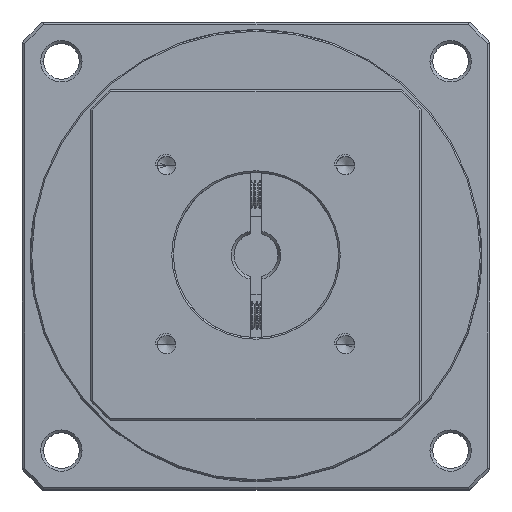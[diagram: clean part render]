
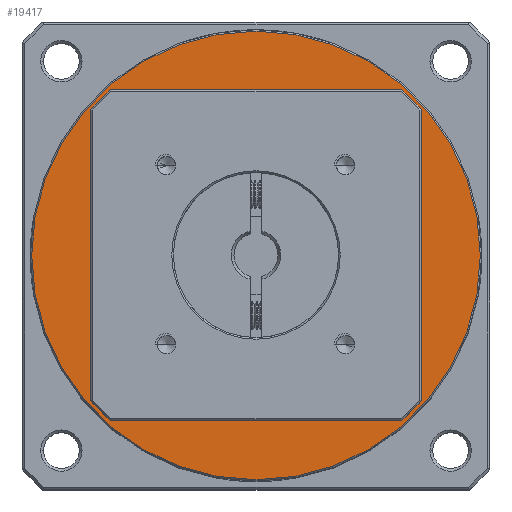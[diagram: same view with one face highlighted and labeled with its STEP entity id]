
A CAD part, top view. The second image highlights one B-rep face of the part: STEP entity #19417.
In plain terms, the highlighted planar face has unit normal (0, 0, 1).
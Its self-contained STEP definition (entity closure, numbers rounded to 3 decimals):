
#2718 = ORIENTED_EDGE ( 'NONE', *, *, #43535, .T. ) ;
#16067 = EDGE_LOOP ( 'NONE', ( #89984, #110338 ) ) ;
#19417 = ADVANCED_FACE ( 'NONE', ( #68778, #98747 ), #109072, .T. ) ;
#23589 = DIRECTION ( 'NONE',  ( 0., 0., 1. ) ) ;
#23616 = DIRECTION ( 'NONE',  ( 1., 0., 0. ) ) ;
#31367 = AXIS2_PLACEMENT_3D ( 'NONE', #118711, #23589, #41538 ) ;
#37786 = CARTESIAN_POINT ( 'NONE',  ( -46.692, 55.161, -50.786 ) ) ;
#39050 = CIRCLE ( 'NONE', #31367, 40.75 ) ;
#40660 = VERTEX_POINT ( 'NONE', #37786 ) ;
#41538 = DIRECTION ( 'NONE',  ( 1., 0., 0. ) ) ;
#42113 = VERTEX_POINT ( 'NONE', #109268 ) ;
#43535 = EDGE_CURVE ( 'NONE', #42113, #83540, #39050, .T. ) ;
#45748 = DIRECTION ( 'NONE',  ( 0., 0., 1. ) ) ;
#49435 = DIRECTION ( 'NONE',  ( 1., 0., 0. ) ) ;
#50337 = EDGE_CURVE ( 'NONE', #52785, #40660, #71883, .T. ) ;
#52785 = VERTEX_POINT ( 'NONE', #97229 ) ;
#55649 = CIRCLE ( 'NONE', #83893, 30. ) ;
#58032 = DIRECTION ( 'NONE',  ( 1., 0., 0. ) ) ;
#67686 = CARTESIAN_POINT ( 'NONE',  ( -35.942, 55.161, -50.786 ) ) ;
#68778 = FACE_BOUND ( 'NONE', #16067, .T. ) ;
#69545 = CARTESIAN_POINT ( 'NONE',  ( -76.692, 55.161, -50.786 ) ) ;
#71152 = EDGE_CURVE ( 'NONE', #40660, #52785, #55649, .T. ) ;
#71354 = DIRECTION ( 'NONE',  ( 0., 0., 1. ) ) ;
#71883 = CIRCLE ( 'NONE', #91999, 30. ) ;
#78023 = EDGE_LOOP ( 'NONE', ( #2718, #122484 ) ) ;
#80255 = AXIS2_PLACEMENT_3D ( 'NONE', #69545, #115759, #49435 ) ;
#80555 = CIRCLE ( 'NONE', #80255, 40.75 ) ;
#83540 = VERTEX_POINT ( 'NONE', #67686 ) ;
#83893 = AXIS2_PLACEMENT_3D ( 'NONE', #93186, #45748, #104061 ) ;
#86517 = EDGE_CURVE ( 'NONE', #83540, #42113, #80555, .T. ) ;
#89984 = ORIENTED_EDGE ( 'NONE', *, *, #50337, .F. ) ;
#90210 = CARTESIAN_POINT ( 'NONE',  ( -76.692, 55.161, -50.786 ) ) ;
#91999 = AXIS2_PLACEMENT_3D ( 'NONE', #105067, #113847, #58032 ) ;
#93186 = CARTESIAN_POINT ( 'NONE',  ( -76.692, 55.161, -50.786 ) ) ;
#97229 = CARTESIAN_POINT ( 'NONE',  ( -106.692, 55.161, -50.786 ) ) ;
#98747 = FACE_OUTER_BOUND ( 'NONE', #78023, .T. ) ;
#104061 = DIRECTION ( 'NONE',  ( 1., 0., 0. ) ) ;
#105067 = CARTESIAN_POINT ( 'NONE',  ( -76.692, 55.161, -50.786 ) ) ;
#109072 = PLANE ( 'NONE',  #110757 ) ;
#109268 = CARTESIAN_POINT ( 'NONE',  ( -117.442, 55.161, -50.786 ) ) ;
#110338 = ORIENTED_EDGE ( 'NONE', *, *, #71152, .F. ) ;
#110757 = AXIS2_PLACEMENT_3D ( 'NONE', #90210, #71354, #23616 ) ;
#113847 = DIRECTION ( 'NONE',  ( 0., 0., 1. ) ) ;
#115759 = DIRECTION ( 'NONE',  ( 0., 0., 1. ) ) ;
#118711 = CARTESIAN_POINT ( 'NONE',  ( -76.692, 55.161, -50.786 ) ) ;
#122484 = ORIENTED_EDGE ( 'NONE', *, *, #86517, .T. ) ;
